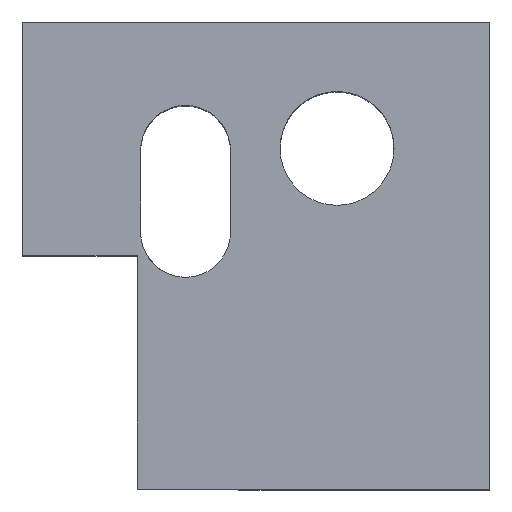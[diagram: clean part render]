
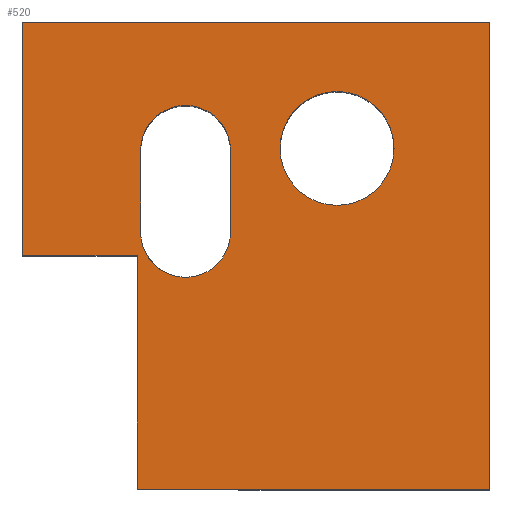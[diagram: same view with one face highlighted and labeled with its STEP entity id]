
A CAD part, top view. The second image highlights one B-rep face of the part: STEP entity #520.
In plain terms, the highlighted planar face has unit normal (0, 0, 1).
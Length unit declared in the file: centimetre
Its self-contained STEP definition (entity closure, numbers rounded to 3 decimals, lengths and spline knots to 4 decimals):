
#9 = CARTESIAN_POINT ( 'NONE',  ( 246.0109, 500.1103, 1000. ) ) ;
#19 = EDGE_CURVE ( 'NONE', #496, #126, #165, .T. ) ;
#23 = ORIENTED_EDGE ( 'NONE', *, *, #689, .T. ) ;
#35 = FACE_BOUND ( 'NONE', #511, .T. ) ;
#36 = EDGE_CURVE ( 'NONE', #437, #614, #500, .T. ) ;
#44 = EDGE_CURVE ( 'NONE', #601, #371, #179, .T. ) ;
#61 = ORIENTED_EDGE ( 'NONE', *, *, #256, .T. ) ;
#75 = VECTOR ( 'NONE', #107, 100. ) ;
#82 = EDGE_CURVE ( 'NONE', #614, #437, #652, .T. ) ;
#89 = VECTOR ( 'NONE', #117, 100. ) ;
#90 = CARTESIAN_POINT ( 'NONE',  ( 349.1281, 549.7833, 1000. ) ) ;
#96 = CARTESIAN_POINT ( 'NONE',  ( 252.8069, 549.7833, 1000. ) ) ;
#107 = DIRECTION ( 'NONE',  ( 0., -1., 0. ) ) ;
#110 = ORIENTED_EDGE ( 'NONE', *, *, #279, .T. ) ;
#111 = CARTESIAN_POINT ( 'NONE',  ( 0., 1000., 1000. ) ) ;
#114 = VECTOR ( 'NONE', #723, 100. ) ;
#116 = CARTESIAN_POINT ( 'NONE',  ( 673.5055, 729.4483, 1000. ) ) ;
#117 = DIRECTION ( 'NONE',  ( -1., 0., 0. ) ) ;
#121 = DIRECTION ( 'NONE',  ( 0., -1., 0. ) ) ;
#126 = VERTEX_POINT ( 'NONE', #705 ) ;
#128 = EDGE_CURVE ( 'NONE', #795, #323, #712, .T. ) ;
#151 = VECTOR ( 'NONE', #847, 100. ) ;
#165 = LINE ( 'NONE', #499, #151 ) ;
#179 = LINE ( 'NONE', #111, #252 ) ;
#183 = AXIS2_PLACEMENT_3D ( 'NONE', #311, #575, #425 ) ;
#184 = VECTOR ( 'NONE', #403, 100. ) ;
#191 = VERTEX_POINT ( 'NONE', #387 ) ;
#208 = CARTESIAN_POINT ( 'NONE',  ( 0., 1000., 1000. ) ) ;
#211 = DIRECTION ( 'NONE',  ( -1., 0., 0. ) ) ;
#217 = ORIENTED_EDGE ( 'NONE', *, *, #295, .T. ) ;
#235 = FACE_BOUND ( 'NONE', #362, .T. ) ;
#244 = EDGE_LOOP ( 'NONE', ( #604, #23, #110, #283, #450, #711 ) ) ;
#252 = VECTOR ( 'NONE', #636, 100. ) ;
#256 = EDGE_CURVE ( 'NONE', #126, #272, #572, .T. ) ;
#259 = LINE ( 'NONE', #726, #114 ) ;
#263 = CARTESIAN_POINT ( 'NONE',  ( 551.5954, 729.4483, 1000. ) ) ;
#266 = AXIS2_PLACEMENT_3D ( 'NONE', #116, #378, #309 ) ;
#272 = VERTEX_POINT ( 'NONE', #853 ) ;
#279 = EDGE_CURVE ( 'NONE', #191, #601, #259, .T. ) ;
#283 = ORIENTED_EDGE ( 'NONE', *, *, #44, .T. ) ;
#295 = EDGE_CURVE ( 'NONE', #744, #496, #428, .T. ) ;
#309 = DIRECTION ( 'NONE',  ( -1., 0., 0. ) ) ;
#311 = CARTESIAN_POINT ( 'NONE',  ( 673.5055, 729.4483, 1000. ) ) ;
#320 = DIRECTION ( 'NONE',  ( 0., 0., -1. ) ) ;
#322 = DIRECTION ( 'NONE',  ( 1., 0., 0. ) ) ;
#323 = VERTEX_POINT ( 'NONE', #671 ) ;
#325 = LINE ( 'NONE', #720, #415 ) ;
#354 = FACE_OUTER_BOUND ( 'NONE', #244, .T. ) ;
#362 = EDGE_LOOP ( 'NONE', ( #217, #629, #61, #457 ) ) ;
#371 = VERTEX_POINT ( 'NONE', #416 ) ;
#374 = EDGE_CURVE ( 'NONE', #371, #694, #686, .T. ) ;
#378 = DIRECTION ( 'NONE',  ( 0., 0., -1. ) ) ;
#385 = CARTESIAN_POINT ( 'NONE',  ( 0., 0., 1000. ) ) ;
#387 = CARTESIAN_POINT ( 'NONE',  ( 1000., 0., 1000. ) ) ;
#395 = DIRECTION ( 'NONE',  ( 0., 0., 1. ) ) ;
#397 = CARTESIAN_POINT ( 'NONE',  ( 0., 500.1103, 1000. ) ) ;
#403 = DIRECTION ( 'NONE',  ( 1., 0., 0. ) ) ;
#415 = VECTOR ( 'NONE', #121, 100. ) ;
#416 = CARTESIAN_POINT ( 'NONE',  ( 0., 1000., 1000. ) ) ;
#425 = DIRECTION ( 'NONE',  ( -1., 0., 0. ) ) ;
#428 = CIRCLE ( 'NONE', #665, 96.3211 ) ;
#437 = VERTEX_POINT ( 'NONE', #497 ) ;
#450 = ORIENTED_EDGE ( 'NONE', *, *, #374, .T. ) ;
#457 = ORIENTED_EDGE ( 'NONE', *, *, #600, .T. ) ;
#459 = DIRECTION ( 'NONE',  ( -1., 0., 0. ) ) ;
#472 = ORIENTED_EDGE ( 'NONE', *, *, #36, .T. ) ;
#492 = PLANE ( 'NONE',  #742 ) ;
#496 = VERTEX_POINT ( 'NONE', #96 ) ;
#497 = CARTESIAN_POINT ( 'NONE',  ( 795.4155, 729.4483, 1000. ) ) ;
#499 = CARTESIAN_POINT ( 'NONE',  ( 252.8069, 549.7833, 1000. ) ) ;
#500 = CIRCLE ( 'NONE', #266, 121.9101 ) ;
#511 = EDGE_LOOP ( 'NONE', ( #756, #472 ) ) ;
#516 = AXIS2_PLACEMENT_3D ( 'NONE', #802, #320, #459 ) ;
#520 = ADVANCED_FACE ( 'NONE', ( #354, #235, #35 ), #492, .T. ) ;
#527 = CARTESIAN_POINT ( 'NONE',  ( 0., 500.1103, 1000. ) ) ;
#544 = LINE ( 'NONE', #801, #184 ) ;
#572 = CIRCLE ( 'NONE', #516, 96.3211 ) ;
#575 = DIRECTION ( 'NONE',  ( 0., 0., -1. ) ) ;
#590 = EDGE_CURVE ( 'NONE', #795, #694, #716, .T. ) ;
#599 = DIRECTION ( 'NONE',  ( 0., -1., 0. ) ) ;
#600 = EDGE_CURVE ( 'NONE', #272, #744, #325, .T. ) ;
#601 = VERTEX_POINT ( 'NONE', #648 ) ;
#603 = DIRECTION ( 'NONE',  ( 0., 0., -1. ) ) ;
#604 = ORIENTED_EDGE ( 'NONE', *, *, #128, .T. ) ;
#614 = VERTEX_POINT ( 'NONE', #263 ) ;
#629 = ORIENTED_EDGE ( 'NONE', *, *, #19, .T. ) ;
#636 = DIRECTION ( 'NONE',  ( -1., 0., 0. ) ) ;
#648 = CARTESIAN_POINT ( 'NONE',  ( 1000., 1000., 1000. ) ) ;
#652 = CIRCLE ( 'NONE', #183, 121.9101 ) ;
#665 = AXIS2_PLACEMENT_3D ( 'NONE', #90, #603, #211 ) ;
#671 = CARTESIAN_POINT ( 'NONE',  ( 246.0109, 0., 1000. ) ) ;
#673 = CARTESIAN_POINT ( 'NONE',  ( 445.4492, 549.7833, 1000. ) ) ;
#686 = LINE ( 'NONE', #208, #741 ) ;
#689 = EDGE_CURVE ( 'NONE', #323, #191, #544, .T. ) ;
#694 = VERTEX_POINT ( 'NONE', #397 ) ;
#705 = CARTESIAN_POINT ( 'NONE',  ( 252.8069, 725.1457, 1000. ) ) ;
#711 = ORIENTED_EDGE ( 'NONE', *, *, #590, .F. ) ;
#712 = LINE ( 'NONE', #765, #75 ) ;
#716 = LINE ( 'NONE', #527, #89 ) ;
#720 = CARTESIAN_POINT ( 'NONE',  ( 445.4492, 725.1457, 1000. ) ) ;
#723 = DIRECTION ( 'NONE',  ( 0., 1., 0. ) ) ;
#726 = CARTESIAN_POINT ( 'NONE',  ( 1000., 1000., 1000. ) ) ;
#741 = VECTOR ( 'NONE', #599, 100. ) ;
#742 = AXIS2_PLACEMENT_3D ( 'NONE', #385, #395, #322 ) ;
#744 = VERTEX_POINT ( 'NONE', #673 ) ;
#756 = ORIENTED_EDGE ( 'NONE', *, *, #82, .T. ) ;
#765 = CARTESIAN_POINT ( 'NONE',  ( 246.0109, 500.1103, 1000. ) ) ;
#795 = VERTEX_POINT ( 'NONE', #9 ) ;
#801 = CARTESIAN_POINT ( 'NONE',  ( 0., 0., 1000. ) ) ;
#802 = CARTESIAN_POINT ( 'NONE',  ( 349.1281, 725.1457, 1000. ) ) ;
#847 = DIRECTION ( 'NONE',  ( 0., 1., 0. ) ) ;
#853 = CARTESIAN_POINT ( 'NONE',  ( 445.4492, 725.1457, 1000. ) ) ;
